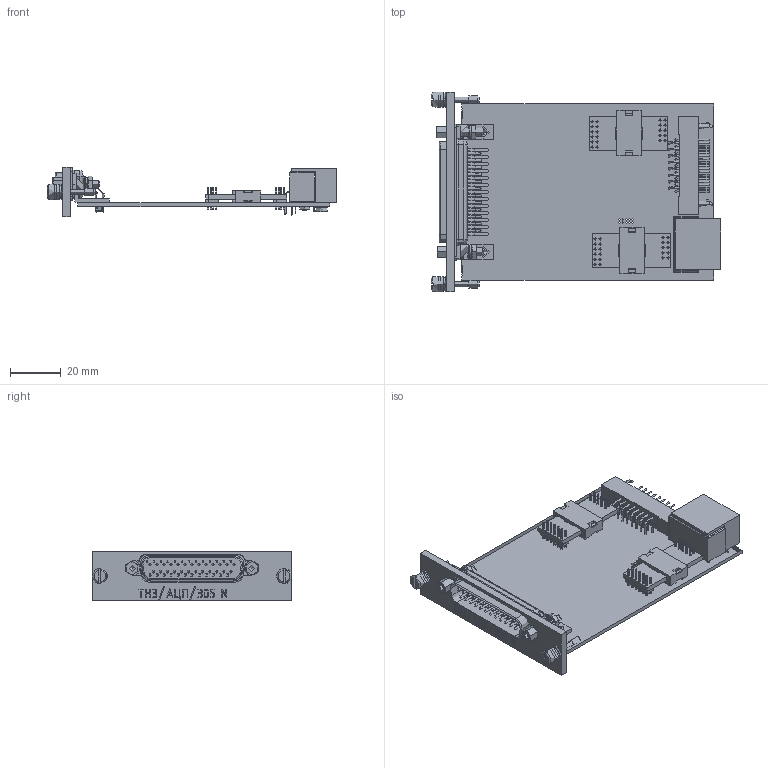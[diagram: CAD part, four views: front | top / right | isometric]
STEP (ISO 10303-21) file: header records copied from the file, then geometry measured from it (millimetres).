
FILE_DESCRIPTION(('STEP AP203'), '1');
FILE_NAME('帎迗.468155.011 沓劌錪 眝3_氈柉305', '', ('UNSPECIFIED'), ('UNSPECIFIED'), 'C3D Converter', 'C3D Toolkit', '');
FILE_SCHEMA(('CONFIG_CONTROL_DESIGN'));
Length unit declared in the file: millimetre
Products named in the file (1): КМНТ.468155.011
Bounding box: 113.82 x 78.5 x 19.6 mm (x, y, z)
Topology: 1 solids, 4 shells, 5145 faces, 13701 edges, 8794 vertices
Faces by surface type: plane 3499, cylinder 1101, extrusion 232, cone 112, torus 61, revolution 54, bspline 50, sphere 36
Full cylindrical faces by diameter (mm): 0.57 x25, 0.6 x43, 0.7 x10, 0.8 x17, 0.97 x50, 1 x155, 1.1 x7, 1.4 x2, 1.6 x2, 2 x2, 2.1 x27, 2.16 x1, 2.362 x2, 2.459 x2, 2.49 x2, 3 x4, 3.175 x4, 3.2 x7, 3.4 x1, 4.5 x6, 4.7 x1, 5 x4, 5.5 x2, 6 x9
Entity records: 217642 total; most frequent: CARTESIAN_POINT 50182, ORIENTED_EDGE 26138, DIRECTION 24736, EDGE_CURVE 13069, VECTOR 9950, LINE 9718, VERTEX_POINT 8812, AXIS2_PLACEMENT_3D 7366
